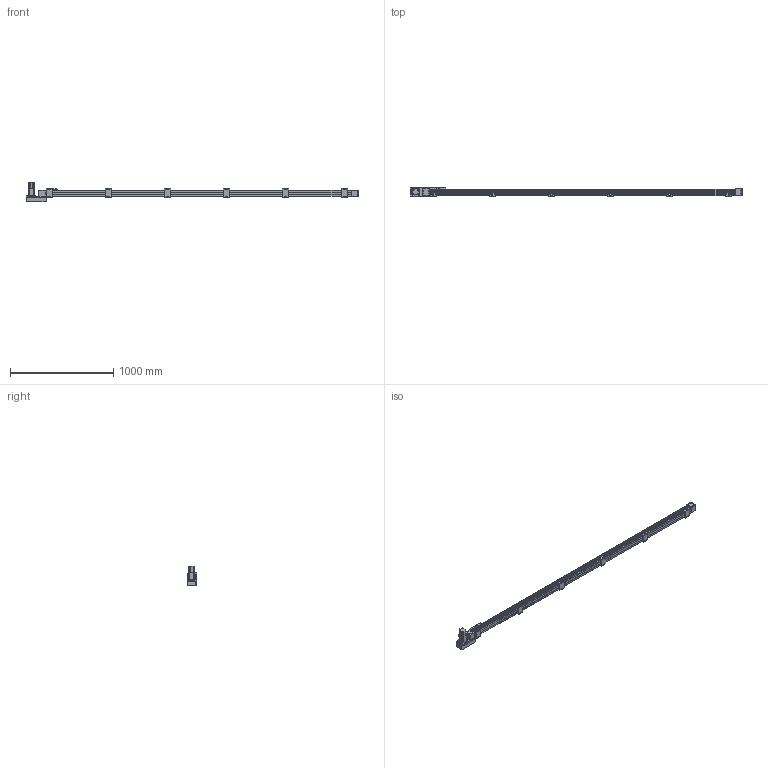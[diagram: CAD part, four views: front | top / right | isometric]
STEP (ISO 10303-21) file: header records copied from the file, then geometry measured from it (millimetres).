
FILE_DESCRIPTION(/* description */ ('STEP AP214'),/* implementation_level */ '2;1');
FILE_NAME(/* name */ 'SK60-P13-S2800-L-T40-C1-N(0)',/* time_stamp */ '2023-04-06T04:12:30+02:00',/* author */ ('License CC BY-ND 4.0'),/* organization */ ('CADENAS'),/* preprocessor_version */ 'ST-DEVELOPER v19.3',/* originating_system */ 'PARTsolutions',/* authorisation */ ' ');
FILE_SCHEMA (('AUTOMOTIVE_DESIGN {1 0 10303 214 3 1 1}'));
Length unit declared in the file: millimetre
Products named in the file (10): SK60-P13-S2800-L-T40-C1-N(0); PSC140-sensor; SK60-S450_seat; SK60-S450-BL-C1_slider; SK60_body3; SK60_body6; SK60-BL_body2; T40-p1; SK60-L_fb; SK60-S2800-L-C1_body
Assembly tree (20 placements, depth 2):
  SK60-P13-S2800-L-T40-C1-N(0)
    PSC140-sensor  x3
    SK60-S450_seat  x6
    SK60-S450-BL-C1_slider
    SK60_body3  x3
    SK60_body6  x2
    SK60-BL_body2  x2
    T40-p1
    SK60-L_fb
    SK60-S2800-L-C1_body
Bounding box: 3220.5 x 90 x 189.7 mm (x, y, z)
Volume: 11740938.7 mm3; surface area: 1376710 mm2
Topology: 20 solids, 20 shells, 986 faces, 2440 edges, 1605 vertices
Faces by surface type: plane 620, cylinder 326, cone 38, torus 2
Full cylindrical faces by diameter (mm): 2.8 x3, 3.3 x4, 4 x2, 4.5 x30, 4.6 x3, 4.917 x32, 5 x6, 5.478 x4, 5.5 x35, 6.5 x12, 7 x2, 8 x4, 8.5 x4, 9.988 x4, 10 x24, 14 x1, 47 x3, 50 x2
Entity records: 18687 total; most frequent: DIRECTION 3192, CARTESIAN_POINT 3154, ORIENTED_EDGE 2940, EDGE_CURVE 1470, AXIS2_PLACEMENT_3D 1072, LINE 1048, VECTOR 1048, VERTEX_POINT 1034
